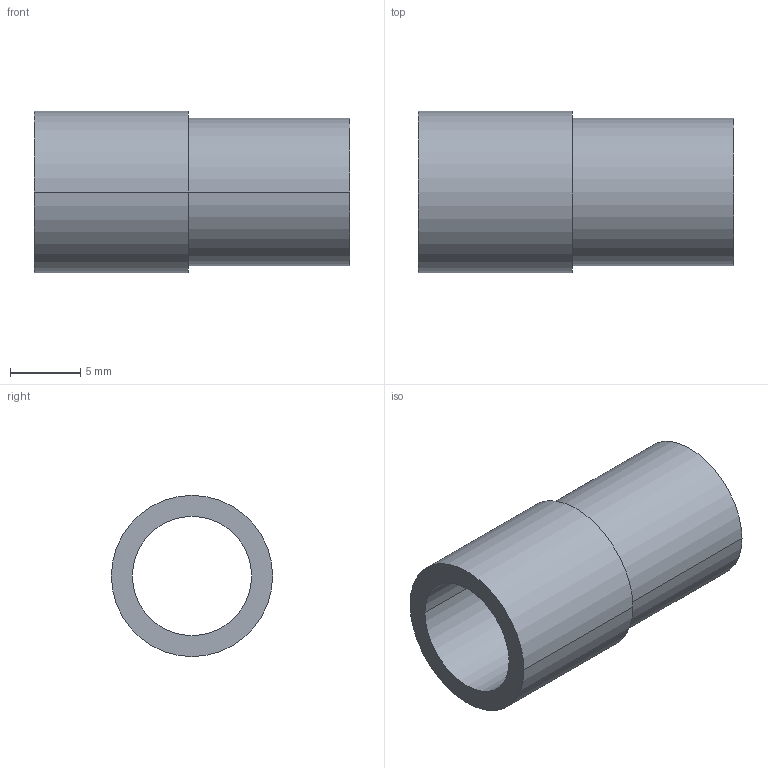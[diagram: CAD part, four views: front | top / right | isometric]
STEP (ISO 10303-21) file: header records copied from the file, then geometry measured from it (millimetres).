
FILE_DESCRIPTION(('Creo Elements/Direct Modeling STEP Export'),'2;1');
FILE_NAME('20040322_OA-W1608_G08-08.stp','2012-09-28T13:49:28',(''),(''),'Creo Elements/Direct Modeling STEP processor for AP214 (Solid Model)','Creo Elements/Direct Modeling 18.0B 02-Dec-2011 (C) Parametric Technology GmbH','');
FILE_SCHEMA(('AUTOMOTIVE_DESIGN { 1 0 10303 214 1 1 1 1 }'));
Length unit declared in the file: millimetre
Products named in the file (1): G08-08
Bounding box: 22.5 x 11.5 x 11.5 mm (x, y, z)
Volume: 861.1 mm3; surface area: 1468.4 mm2
Topology: 1 solids, 1 shells, 11 faces, 22 edges, 14 vertices
Faces by surface type: cylinder 6, plane 3, torus 2
Entity records: 287 total; most frequent: DIRECTION 48, ORIENTED_EDGE 44, CARTESIAN_POINT 41, EDGE_CURVE 22, AXIS2_PLACEMENT_3D 21, VERTEX_POINT 14, EDGE_LOOP 14, FACE_OUTER_BOUND 11
